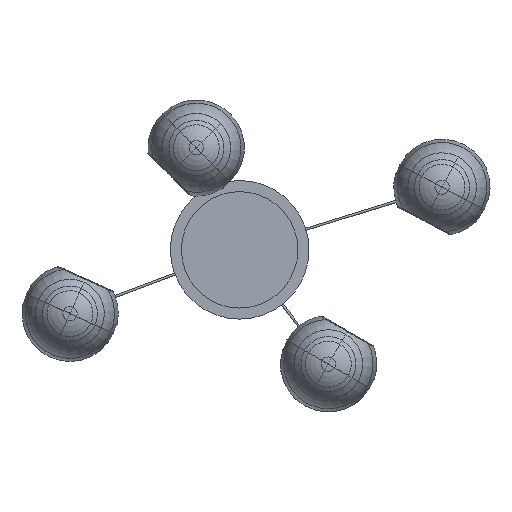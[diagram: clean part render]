
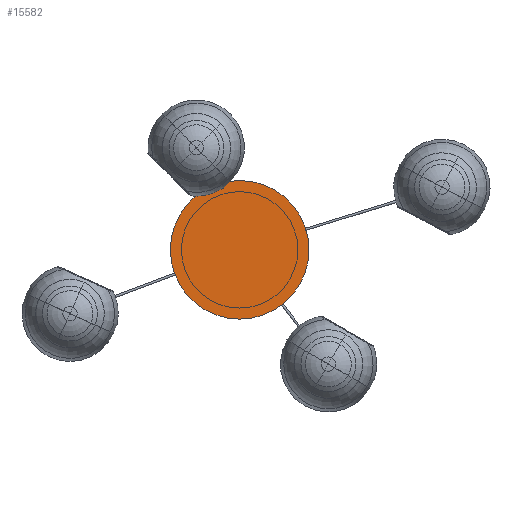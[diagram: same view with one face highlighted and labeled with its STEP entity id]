
A CAD part, front view. The second image highlights one B-rep face of the part: STEP entity #15582.
In plain terms, the highlighted planar face has unit normal (0, -1, 0).
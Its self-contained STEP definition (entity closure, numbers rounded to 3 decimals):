
#1635 = AXIS2_PLACEMENT_3D ( 'NONE', #14597, #12224, #3495 ) ;
#2160 = ORIENTED_EDGE ( 'NONE', *, *, #5246, .T. ) ;
#3006 = EDGE_CURVE ( 'NONE', #11679, #6297, #7414, .T. ) ;
#3258 = DIRECTION ( 'NONE',  ( 0., -1., 0. ) ) ;
#3495 = DIRECTION ( 'NONE',  ( 0., 0., -1. ) ) ;
#4502 = CARTESIAN_POINT ( 'NONE',  ( 0., -15., 0. ) ) ;
#5246 = EDGE_CURVE ( 'NONE', #6297, #11679, #16132, .T. ) ;
#6297 = VERTEX_POINT ( 'NONE', #14545 ) ;
#7325 = DIRECTION ( 'NONE',  ( 0., -1., 0. ) ) ;
#7414 = CIRCLE ( 'NONE', #1635, 125. ) ;
#8273 = DIRECTION ( 'NONE',  ( 0., 0., -1. ) ) ;
#9718 = PLANE ( 'NONE',  #13913 ) ;
#10968 = EDGE_LOOP ( 'NONE', ( #2160, #11916 ) ) ;
#11212 = FACE_OUTER_BOUND ( 'NONE', #10968, .T. ) ;
#11679 = VERTEX_POINT ( 'NONE', #14833 ) ;
#11916 = ORIENTED_EDGE ( 'NONE', *, *, #3006, .T. ) ;
#12224 = DIRECTION ( 'NONE',  ( 0., -1., 0. ) ) ;
#12363 = DIRECTION ( 'NONE',  ( 0., 0., -1. ) ) ;
#13419 = CARTESIAN_POINT ( 'NONE',  ( 0., -15., -125. ) ) ;
#13773 = AXIS2_PLACEMENT_3D ( 'NONE', #4502, #3258, #8273 ) ;
#13913 = AXIS2_PLACEMENT_3D ( 'NONE', #13419, #7325, #12363 ) ;
#14545 = CARTESIAN_POINT ( 'NONE',  ( 0., -15., -125. ) ) ;
#14597 = CARTESIAN_POINT ( 'NONE',  ( 0., -15., 0. ) ) ;
#14833 = CARTESIAN_POINT ( 'NONE',  ( 0., -15., 125. ) ) ;
#15582 = ADVANCED_FACE ( 'NONE', ( #11212 ), #9718, .T. ) ;
#16132 = CIRCLE ( 'NONE', #13773, 125. ) ;
